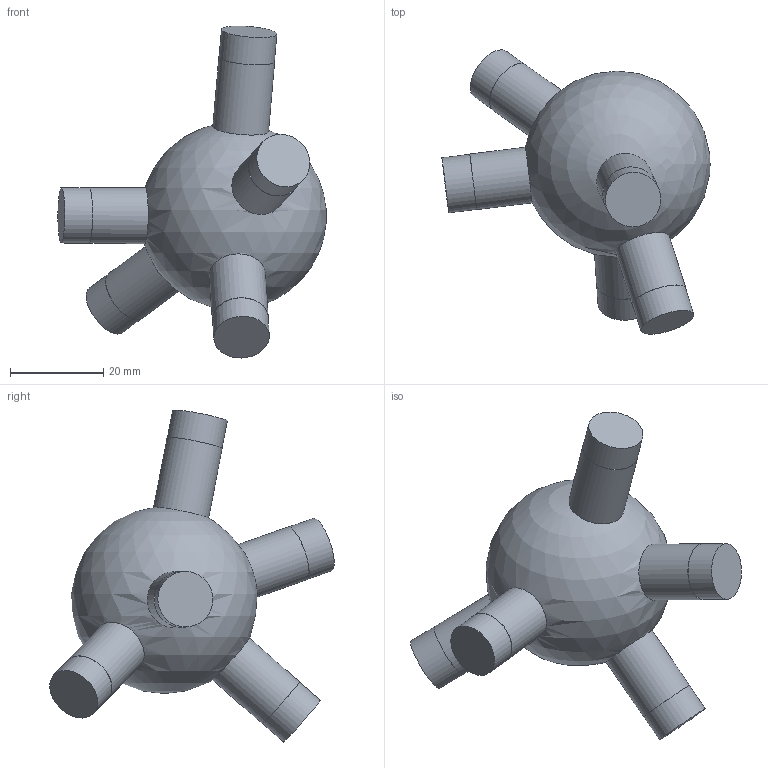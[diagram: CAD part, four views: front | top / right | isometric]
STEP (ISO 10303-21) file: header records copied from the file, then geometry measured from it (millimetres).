
FILE_DESCRIPTION(('Open CASCADE Model'),'2;1');
FILE_NAME('Open CASCADE Shape Model','2026-10-21T12:47:57',('Author'),( 'Open CASCADE'),'Open CASCADE STEP processor 7.9','Open CASCADE 7.9' ,'Unknown');
FILE_SCHEMA(('AUTOMOTIVE_DESIGN { 1 0 10303 214 1 1 1 1 }'));
Length unit declared in the file: millimetre
Products named in the file (1): Open CASCADE STEP translator 7.9 101
Bounding box: 57.48 x 61.02 x 71.17 mm (x, y, z)
Volume: 44278.2 mm3; surface area: 8699.4 mm2
Topology: 1 solids, 1 shells, 21 faces, 33 edges, 22 vertices
Faces by surface type: cylinder 10, plane 10, sphere 1
Full cylindrical faces by diameter (mm): 11.9 x5, 12 x5
Entity records: 1244 total; most frequent: CARTESIAN_POINT 486, DIRECTION 156, ORIENTED_EDGE 64, PCURVE 64, DEFINITIONAL_REPRESENTATION 64, LINE 53, VECTOR 53, AXIS2_PLACEMENT_3D 44
